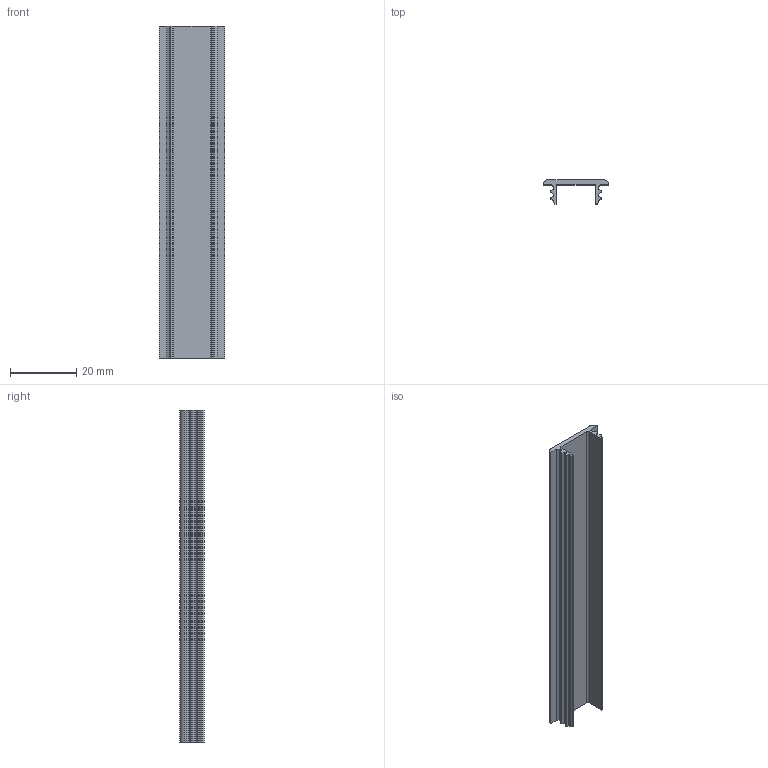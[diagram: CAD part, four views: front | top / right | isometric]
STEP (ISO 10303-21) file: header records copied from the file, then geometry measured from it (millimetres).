
FILE_DESCRIPTION(/* description */ (''),/* implementation_level */ '2;1');
FILE_NAME(/* name */ 'D:\$Workingspace\Designs\Profile\137 - Profil LED nakładany mały\MOOV pliki\pliki 3ds\PW-PC61209-00.stp',/* time_stamp */ '2018-01-12T12:31:07+01:00',/* author */ ('tomaszw'),/* organization */ (''),/* preprocessor_version */ 'ST-DEVELOPER v16.1',/* originating_system */ 'Autodesk Inventor 2016',/* authorisation */ '');
FILE_SCHEMA (('CONFIG_CONTROL_DESIGN'));
Length unit declared in the file: millimetre
Products named in the file (1): PW-PC31209-00N
Bounding box: 19.8 x 7.3 x 100 mm (x, y, z)
Volume: 4015.6 mm3; surface area: 6704.1 mm2
Topology: 1 solids, 1 shells, 55 faces, 159 edges, 106 vertices
Faces by surface type: plane 32, cylinder 23
Entity records: 1843 total; most frequent: CARTESIAN_POINT 321, ORIENTED_EDGE 318, DIRECTION 317, EDGE_CURVE 159, LINE 113, VECTOR 113, VERTEX_POINT 106, AXIS2_PLACEMENT_3D 102
